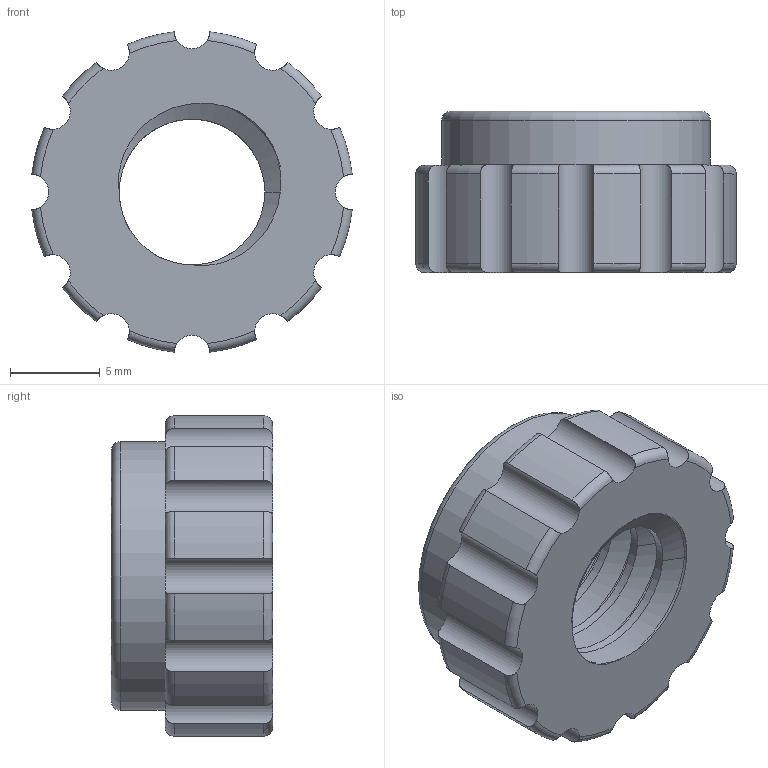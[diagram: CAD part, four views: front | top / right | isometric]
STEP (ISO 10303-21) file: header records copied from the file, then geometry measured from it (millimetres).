
FILE_DESCRIPTION(('FreeCAD Model'),'2;1');
FILE_NAME('Open CASCADE Shape Model','2025-11-08T12:08:21',(''),(''), 'Open CASCADE STEP processor 7.8','FreeCAD','Unknown');
FILE_SCHEMA(('AUTOMOTIVE_DESIGN { 1 0 10303 214 1 1 1 1 }'));
Length unit declared in the file: millimetre
Products named in the file (1): Locking Knob Body
Bounding box: 17.89 x 9 x 17.89 mm (x, y, z)
Volume: 1350.9 mm3; surface area: 1297.3 mm2
Topology: 1 solids, 1 shells, 76 faces, 199 edges, 126 vertices
Faces by surface type: cylinder 30, torus 25, bspline 18, plane 3
Full cylindrical faces by diameter (mm): 8.135 x4, 15 x1
Entity records: 11400 total; most frequent: CARTESIAN_POINT 7911, DIRECTION 521, ORIENTED_EDGE 398, PCURVE 398, DEFINITIONAL_REPRESENTATION 398, LINE 245, VECTOR 245, B_SPLINE_CURVE_WITH_KNOTS 211
